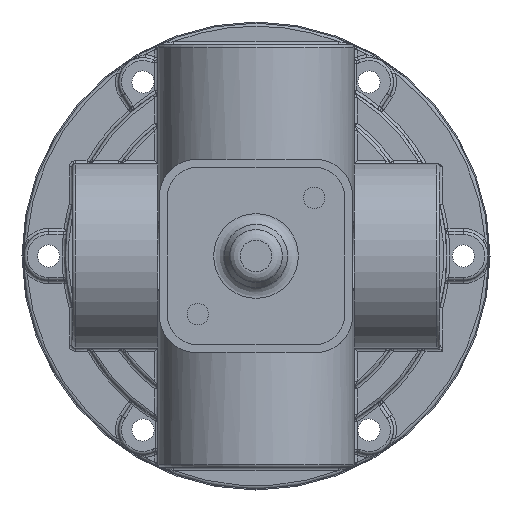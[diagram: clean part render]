
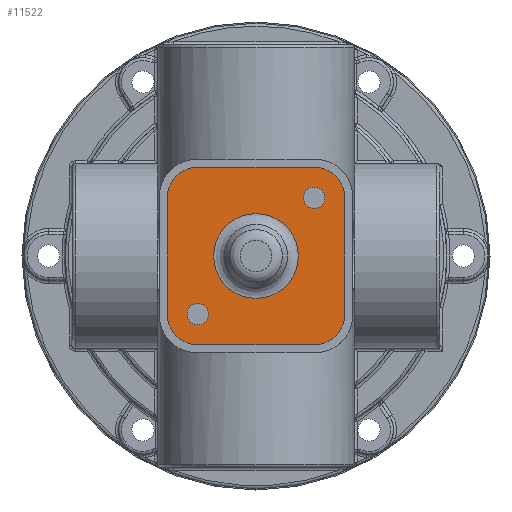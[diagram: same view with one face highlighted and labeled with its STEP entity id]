
A CAD part, front view. The second image highlights one B-rep face of the part: STEP entity #11522.
In plain terms, the highlighted planar face has unit normal (0, -1, 0).
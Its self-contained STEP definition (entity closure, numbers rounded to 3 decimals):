
#884=FACE_BOUND('',#2641,.T.);
#885=FACE_BOUND('',#2642,.T.);
#886=FACE_BOUND('',#2643,.T.);
#1124=PLANE('',#13019);
#1862=FACE_OUTER_BOUND('',#2640,.T.);
#2640=EDGE_LOOP('',(#10737,#10738,#10739,#10740,#10741,#10742,#10743,#10744));
#2641=EDGE_LOOP('',(#10745));
#2642=EDGE_LOOP('',(#10746));
#2643=EDGE_LOOP('',(#10747));
#3207=LINE('',#32638,#3771);
#3210=LINE('',#32646,#3774);
#3213=LINE('',#32654,#3777);
#3216=LINE('',#32661,#3780);
#3771=VECTOR('',#16493,19.);
#3774=VECTOR('',#16502,19.);
#3777=VECTOR('',#16511,19.);
#3780=VECTOR('',#16520,19.);
#4586=CIRCLE('',#12998,5.);
#4587=CIRCLE('',#13001,5.);
#4588=CIRCLE('',#13004,5.);
#4589=CIRCLE('',#13007,5.);
#4590=CIRCLE('',#13010,1.75);
#4591=CIRCLE('',#13012,1.75);
#4596=CIRCLE('',#13020,6.905);
#5593=VERTEX_POINT('',#32631);
#5594=VERTEX_POINT('',#32632);
#5595=VERTEX_POINT('',#32637);
#5596=VERTEX_POINT('',#32641);
#5597=VERTEX_POINT('',#32645);
#5598=VERTEX_POINT('',#32649);
#5599=VERTEX_POINT('',#32653);
#5600=VERTEX_POINT('',#32657);
#5601=VERTEX_POINT('',#32663);
#5602=VERTEX_POINT('',#32667);
#5606=VERTEX_POINT('',#32680);
#7299=EDGE_CURVE('',#5593,#5594,#4586,.T.);
#7302=EDGE_CURVE('',#5595,#5593,#3207,.T.);
#7304=EDGE_CURVE('',#5596,#5595,#4587,.T.);
#7306=EDGE_CURVE('',#5597,#5596,#3210,.T.);
#7308=EDGE_CURVE('',#5598,#5597,#4588,.T.);
#7310=EDGE_CURVE('',#5599,#5598,#3213,.T.);
#7312=EDGE_CURVE('',#5600,#5599,#4589,.T.);
#7314=EDGE_CURVE('',#5594,#5600,#3216,.T.);
#7316=EDGE_CURVE('',#5601,#5601,#4590,.T.);
#7318=EDGE_CURVE('',#5602,#5602,#4591,.T.);
#7323=EDGE_CURVE('',#5606,#5606,#4596,.T.);
#10737=ORIENTED_EDGE('',*,*,#7314,.F.);
#10738=ORIENTED_EDGE('',*,*,#7299,.F.);
#10739=ORIENTED_EDGE('',*,*,#7302,.F.);
#10740=ORIENTED_EDGE('',*,*,#7304,.F.);
#10741=ORIENTED_EDGE('',*,*,#7306,.F.);
#10742=ORIENTED_EDGE('',*,*,#7308,.F.);
#10743=ORIENTED_EDGE('',*,*,#7310,.F.);
#10744=ORIENTED_EDGE('',*,*,#7312,.F.);
#10745=ORIENTED_EDGE('',*,*,#7316,.T.);
#10746=ORIENTED_EDGE('',*,*,#7318,.T.);
#10747=ORIENTED_EDGE('',*,*,#7323,.F.);
#11522=ADVANCED_FACE('',(#1862,#884,#885,#886),#1124,.F.);
#12998=AXIS2_PLACEMENT_3D('',#32633,#16487,#16488);
#13001=AXIS2_PLACEMENT_3D('',#32642,#16497,#16498);
#13004=AXIS2_PLACEMENT_3D('',#32650,#16506,#16507);
#13007=AXIS2_PLACEMENT_3D('',#32658,#16515,#16516);
#13010=AXIS2_PLACEMENT_3D('',#32665,#16524,#16525);
#13012=AXIS2_PLACEMENT_3D('',#32669,#16529,#16530);
#13019=AXIS2_PLACEMENT_3D('',#32679,#16543,#16544);
#13020=AXIS2_PLACEMENT_3D('',#32681,#16545,#16546);
#16487=DIRECTION('center_axis',(0.,1.,0.));
#16488=DIRECTION('ref_axis',(0.,0.,-1.));
#16493=DIRECTION('',(0.,0.,1.));
#16497=DIRECTION('center_axis',(0.,1.,0.));
#16498=DIRECTION('ref_axis',(1.,0.,0.));
#16502=DIRECTION('',(-1.,0.,0.));
#16506=DIRECTION('center_axis',(0.,1.,0.));
#16507=DIRECTION('ref_axis',(0.,0.,1.));
#16511=DIRECTION('',(0.,0.,-1.));
#16515=DIRECTION('center_axis',(0.,1.,0.));
#16516=DIRECTION('ref_axis',(-1.,0.,0.));
#16520=DIRECTION('',(1.,0.,0.));
#16524=DIRECTION('center_axis',(0.,1.,0.));
#16525=DIRECTION('ref_axis',(-1.,0.,0.));
#16529=DIRECTION('center_axis',(0.,1.,0.));
#16530=DIRECTION('ref_axis',(-1.,0.,0.));
#16543=DIRECTION('center_axis',(0.,1.,0.));
#16544=DIRECTION('ref_axis',(0.,0.,1.));
#16545=DIRECTION('center_axis',(0.,-1.,0.));
#16546=DIRECTION('ref_axis',(-1.,0.,0.));
#32631=CARTESIAN_POINT('',(-14.5,-14.,-25.));
#32632=CARTESIAN_POINT('',(-9.5,-14.,-20.));
#32633=CARTESIAN_POINT('Origin',(-9.5,-14.,-25.));
#32637=CARTESIAN_POINT('',(-14.5,-14.,-44.));
#32638=CARTESIAN_POINT('',(-14.5,-14.,-44.));
#32641=CARTESIAN_POINT('',(-9.5,-14.,-49.));
#32642=CARTESIAN_POINT('Origin',(-9.5,-14.,-44.));
#32645=CARTESIAN_POINT('',(9.5,-14.,-49.));
#32646=CARTESIAN_POINT('',(9.5,-14.,-49.));
#32649=CARTESIAN_POINT('',(14.5,-14.,-44.));
#32650=CARTESIAN_POINT('Origin',(9.5,-14.,-44.));
#32653=CARTESIAN_POINT('',(14.5,-14.,-25.));
#32654=CARTESIAN_POINT('',(14.5,-14.,-25.));
#32657=CARTESIAN_POINT('',(9.5,-14.,-20.));
#32658=CARTESIAN_POINT('Origin',(9.5,-14.,-25.));
#32661=CARTESIAN_POINT('',(-9.5,-14.,-20.));
#32663=CARTESIAN_POINT('',(11.25,-14.,-25.));
#32665=CARTESIAN_POINT('Origin',(9.5,-14.,-25.));
#32667=CARTESIAN_POINT('',(-7.75,-14.,-44.));
#32669=CARTESIAN_POINT('Origin',(-9.5,-14.,-44.));
#32679=CARTESIAN_POINT('Origin',(0.,-14.,-34.5));
#32680=CARTESIAN_POINT('',(0.,-14.,-41.405));
#32681=CARTESIAN_POINT('Origin',(0.,-14.,-34.5));
